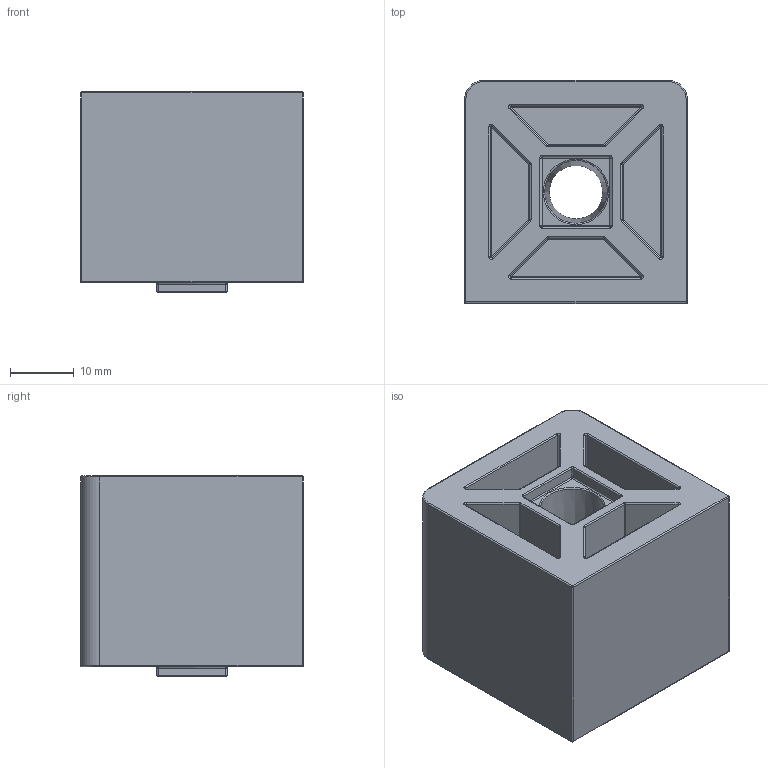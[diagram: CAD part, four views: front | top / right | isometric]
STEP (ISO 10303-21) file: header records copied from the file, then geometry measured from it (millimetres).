
FILE_DESCRIPTION((''),'2;1');
FILE_NAME('C:\Vault Klient\Projekt\Step\300-2030.stp','2009-12-04T10:33:19',('Mathias'),(''),'Autodesk Inventor 2010','Autodesk Inventor 2010','');
FILE_SCHEMA(('CONFIG_CONTROL_DESIGN'));
Length unit declared in the file: millimetre
Products named in the file (1): 300-2030
Bounding box: 35 x 35 x 31.5 mm (x, y, z)
Volume: 24837.3 mm3; surface area: 12224.3 mm2
Topology: 1 solids, 1 shells, 179 faces, 399 edges, 196 vertices
Faces by surface type: cylinder 84, plane 36, torus 26, bspline 24, sphere 8, cone 1
Entity records: 5148 total; most frequent: CARTESIAN_POINT 1356, DIRECTION 872, ORIENTED_EDGE 728, EDGE_CURVE 364, AXIS2_PLACEMENT_3D 352, VERTEX_POINT 196, EDGE_LOOP 190, CIRCLE 188
